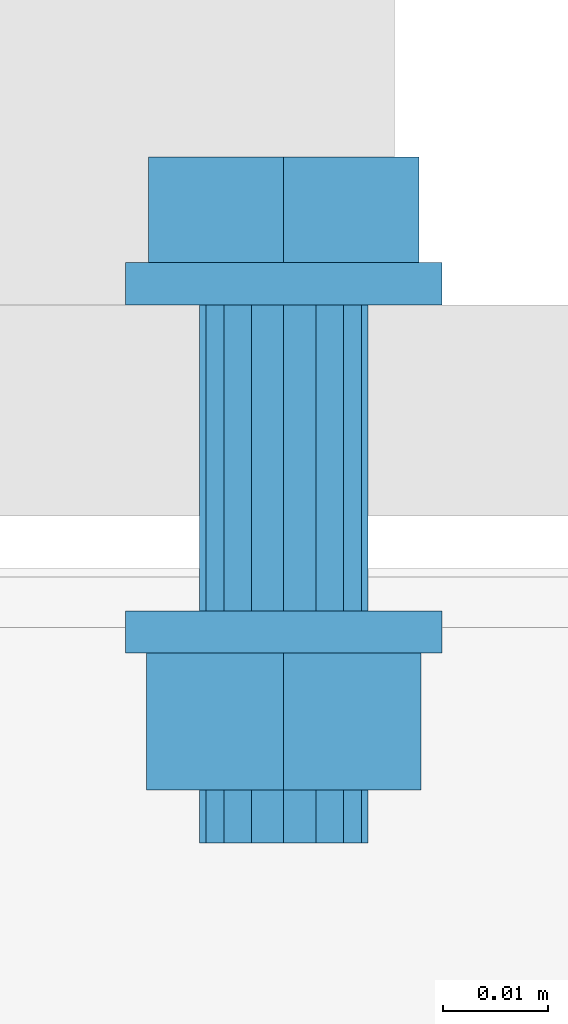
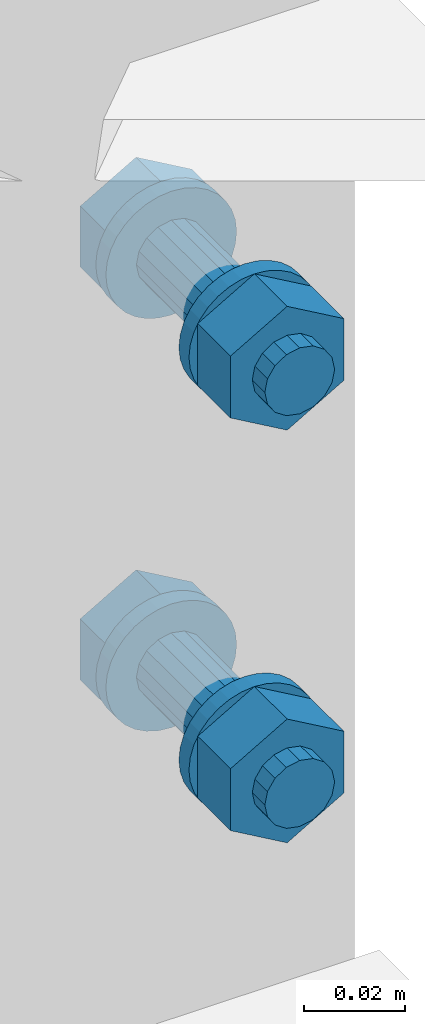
# One storey, part 17 of 21: 2 mechanical fasteners.
"""IFC4X3_ADD2 building model written with IfcOpenShell, lengths in millimetres."""

from ifc_helpers import new_model, entity, si_unit, converted_unit, derived_unit, direction, frame, origin, place, context, project, spatial, faceted_brep, element, save


model = new_model("IFC4X3_ADD2")

# Units and contexts
model_context = context("Model", 3, precision=0.01, world=origin(), true_north=direction((6.123233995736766e-17, 1.0)))
plan_context = context("Plan", 3, precision=0.01, world=origin(), true_north=direction((6.123233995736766e-17, 1.0)))
ifc_project = project(units=[si_unit("LENGTHUNIT", "METRE", prefix="MILLI"), converted_unit("PLANEANGLEUNIT", "DEGREE", entity("IfcPlaneAngleMeasure", 0.017453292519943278), si_unit("PLANEANGLEUNIT", "RADIAN"), dimensions=[0, 0, 0, 0, 0, 0, 0]), si_unit("AREAUNIT", "SQUARE_METRE"), si_unit("VOLUMEUNIT", "CUBIC_METRE"), derived_unit("THERMALTRANSMITTANCEUNIT", [(si_unit("MASSUNIT", "GRAM", prefix="KILO"), 1), (si_unit("THERMODYNAMICTEMPERATUREUNIT", "KELVIN"), -1), (si_unit("TIMEUNIT", "SECOND"), -3)]), derived_unit("USERDEFINED", [(si_unit("MASSUNIT", "GRAM", prefix="KILO"), 1), (si_unit("THERMODYNAMICTEMPERATUREUNIT", "KELVIN"), -1), (si_unit("TIMEUNIT", "SECOND"), -2)]), derived_unit("THERMALRESISTANCEUNIT", [(si_unit("MASSUNIT", "GRAM", prefix="KILO"), -1), (si_unit("TIMEUNIT", "SECOND"), 3), (si_unit("THERMODYNAMICTEMPERATUREUNIT", "KELVIN"), 1)]), si_unit("MASSUNIT", "GRAM", prefix="KILO"), derived_unit("MOMENTOFINERTIAUNIT", [(si_unit("LENGTHUNIT", "METRE"), 4)]), derived_unit("LINEARFORCEUNIT", [(si_unit("MASSUNIT", "GRAM", prefix="KILO"), 1), (si_unit("TIMEUNIT", "SECOND"), -2)]), derived_unit("WARPINGCONSTANTUNIT", [(si_unit("LENGTHUNIT", "METRE"), 6)]), si_unit("PRESSUREUNIT", "PASCAL"), derived_unit("MASSDENSITYUNIT", [(si_unit("MASSUNIT", "GRAM", prefix="KILO"), 1), (si_unit("LENGTHUNIT", "METRE"), -3)]), derived_unit("MODULUSOFELASTICITYUNIT", [(si_unit("MASSUNIT", "GRAM", prefix="KILO"), 1), (si_unit("TIMEUNIT", "SECOND"), -2), (si_unit("LENGTHUNIT", "METRE"), -1)]), derived_unit("THERMALEXPANSIONCOEFFICIENTUNIT", [(si_unit("THERMODYNAMICTEMPERATUREUNIT", "KELVIN"), -1)]), derived_unit("VAPORPERMEABILITYUNIT", [(si_unit("LENGTHUNIT", "METRE"), -1), (si_unit("TIMEUNIT", "SECOND"), 1)]), derived_unit("USERDEFINED", [(si_unit("MASSUNIT", "GRAM", prefix="KILO"), 1), (si_unit("TIMEUNIT", "SECOND"), -3), (si_unit("LENGTHUNIT", "METRE"), 3), (si_unit("ELECTRICCURRENTUNIT", "AMPERE"), -2)]), derived_unit("SPECIFICHEATCAPACITYUNIT", [(si_unit("THERMODYNAMICTEMPERATUREUNIT", "KELVIN"), -1), (si_unit("TIMEUNIT", "SECOND"), -2), (si_unit("LENGTHUNIT", "METRE"), 2)]), derived_unit("THERMALCONDUCTANCEUNIT", [(si_unit("MASSUNIT", "GRAM", prefix="KILO"), 1), (si_unit("THERMODYNAMICTEMPERATUREUNIT", "KELVIN"), -1), (si_unit("TIMEUNIT", "SECOND"), -3), (si_unit("LENGTHUNIT", "METRE"), 1)])], contexts=[model_context, plan_context])

# Site, building, storey
site_placement = place(None, origin())
site = spatial("IfcSite", under=ifc_project, at=site_placement, Name="Default", CompositionType="ELEMENT")
building_placement = place(site_placement, origin())
building = spatial("IfcBuilding", under=site, at=building_placement, Name="Complex structure", CompositionType="ELEMENT")
storey_placement = place(building_placement, frame((0.0, 0.0, 3000.0)))
storey = spatial("IfcBuildingStorey", under=building, at=storey_placement, Name="Level 01", CompositionType="ELEMENT", Elevation=3000.0)

# Mechanical fasteners
mechanical_fastener_1_placement = place(storey_placement, frame((0.0, 0.0, -3000.0)))
element("IfcMechanicalFastener", 1, at=mechanical_fastener_1_placement, inside=storey, ObjectType="Bolt#7", NominalDiameter=16.0, NominalLength=55.0, context=model_context, shape_type="Brep", body=[
    faceted_brep([(-5081.026350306, -1182.866703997, 3703.0), (-5081.026350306, -1186.866703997, 3703.0), (-5081.3145711, -1186.866703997, 3700.07364517), (-5081.3145711, -1182.866703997, 3700.07364517), (-5082.168157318, -1186.866703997, 3697.259748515), (-5082.168157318, -1182.866703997, 3697.259748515), (-5083.554306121, -1186.866703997, 3694.666446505), (-5083.554306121, -1182.866703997, 3694.666446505), (-5085.419748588, -1186.866703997, 3692.393398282), (-5085.419748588, -1182.866703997, 3692.393398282), (-5087.692796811, -1186.866703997, 3690.527955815), (-5087.692796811, -1182.866703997, 3690.527955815), (-5090.28609882, -1186.866703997, 3689.141807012), (-5090.28609882, -1182.866703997, 3689.141807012), (-5093.099995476, -1186.866703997, 3688.288220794), (-5093.099995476, -1182.866703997, 3688.288220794), (-5096.026350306, -1186.866703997, 3688.0), (-5096.026350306, -1182.866703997, 3688.0), (-5098.952705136, -1186.866703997, 3688.288220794), (-5098.952705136, -1182.866703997, 3688.288220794), (-5101.766601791, -1186.866703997, 3689.141807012), (-5101.766601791, -1182.866703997, 3689.141807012), (-5104.359903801, -1186.866703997, 3690.527955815), (-5104.359903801, -1182.866703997, 3690.527955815), (-5106.632952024, -1186.866703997, 3692.393398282), (-5106.632952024, -1182.866703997, 3692.393398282), (-5108.49839449, -1186.866703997, 3694.666446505), (-5108.49839449, -1182.866703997, 3694.666446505), (-5109.884543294, -1186.866703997, 3697.259748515), (-5109.884543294, -1182.866703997, 3697.259748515), (-5110.738129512, -1186.866703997, 3700.07364517), (-5110.738129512, -1182.866703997, 3700.07364517), (-5111.026350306, -1186.866703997, 3703.0), (-5111.026350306, -1182.866703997, 3703.0), (-5110.738129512, -1186.866703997, 3705.92635483), (-5110.738129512, -1182.866703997, 3705.92635483), (-5109.884543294, -1186.866703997, 3708.740251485), (-5109.884543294, -1182.866703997, 3708.740251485), (-5108.49839449, -1186.866703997, 3711.333553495), (-5108.49839449, -1182.866703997, 3711.333553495), (-5106.632952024, -1186.866703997, 3713.606601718), (-5106.632952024, -1182.866703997, 3713.606601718), (-5104.359903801, -1186.866703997, 3715.472044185), (-5104.359903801, -1182.866703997, 3715.472044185), (-5101.766601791, -1186.866703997, 3716.858192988), (-5101.766601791, -1182.866703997, 3716.858192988), (-5098.952705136, -1186.866703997, 3717.711779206), (-5098.952705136, -1182.866703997, 3717.711779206), (-5096.026350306, -1186.866703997, 3718.0), (-5096.026350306, -1182.866703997, 3718.0), (-5093.099995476, -1186.866703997, 3717.711779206), (-5093.099995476, -1182.866703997, 3717.711779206), (-5090.28609882, -1186.866703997, 3716.858192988), (-5090.28609882, -1182.866703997, 3716.858192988), (-5087.692796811, -1186.866703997, 3715.472044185), (-5087.692796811, -1182.866703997, 3715.472044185), (-5085.419748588, -1186.866703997, 3713.606601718), (-5085.419748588, -1182.866703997, 3713.606601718), (-5083.554306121, -1186.866703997, 3711.333553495), (-5083.554306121, -1182.866703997, 3711.333553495), (-5082.168157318, -1186.866703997, 3708.740251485), (-5082.168157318, -1182.866703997, 3708.740251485), (-5081.3145711, -1186.866703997, 3705.92635483), (-5081.3145711, -1182.866703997, 3705.92635483)], [[[0, 1, 2, 3]], [[3, 2, 4, 5]], [[5, 4, 6, 7]], [[7, 6, 8, 9]], [[9, 8, 10, 11]], [[11, 10, 12, 13]], [[13, 12, 14, 15]], [[15, 14, 16, 17]], [[17, 16, 18, 19]], [[19, 18, 20, 21]], [[21, 20, 22, 23]], [[23, 22, 24, 25]], [[25, 24, 26, 27]], [[27, 26, 28, 29]], [[29, 28, 30, 31]], [[31, 30, 32, 33]], [[33, 32, 34, 35]], [[35, 34, 36, 37]], [[37, 36, 38, 39]], [[39, 38, 40, 41]], [[41, 40, 42, 43]], [[43, 42, 44, 45]], [[45, 44, 46, 47]], [[47, 46, 48, 49]], [[49, 48, 50, 51]], [[51, 50, 52, 53]], [[53, 52, 54, 55]], [[55, 54, 56, 57]], [[57, 56, 58, 59]], [[59, 58, 60, 61]], [[61, 60, 62, 63]], [[63, 62, 1, 0]], [[0, 3, 5, 7, 9, 11, 13, 15, 17, 19, 21, 23, 25, 27, 29, 31, 33, 35, 37, 39, 41, 43, 45, 47, 49, 51, 53, 55, 57, 59, 61, 63]], [[1, 62, 60, 58, 56, 54, 52, 50, 48, 46, 44, 42, 40, 38, 36, 34, 32, 30, 28, 26, 24, 22, 20, 18, 16, 14, 12, 10, 8, 6, 4, 2]]]),
    faceted_brep([(-5108.826205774, -1182.866703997, 3695.61), (-5108.826205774, -1172.866703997, 3695.61), (-5096.026350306, -1172.866703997, 3688.22), (-5096.026350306, -1182.866703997, 3688.22), (-5083.226494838, -1172.866703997, 3695.61), (-5083.226494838, -1182.866703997, 3695.61), (-5083.226494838, -1172.866703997, 3710.39), (-5083.226494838, -1182.866703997, 3710.39), (-5096.026350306, -1172.866703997, 3717.78), (-5096.026350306, -1182.866703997, 3717.78), (-5108.826205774, -1172.866703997, 3710.39), (-5108.826205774, -1182.866703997, 3710.39)], [[[0, 1, 2, 3]], [[3, 2, 4, 5]], [[5, 4, 6, 7]], [[7, 6, 8, 9]], [[9, 8, 10, 11]], [[11, 10, 1, 0]], [[4, 2, 1, 10, 8, 6]], [[0, 3, 5, 7, 9, 11]]]),
    faceted_brep([(-5088.026350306, -1186.866703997, 3703.0), (-5088.026350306, -1215.866703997, 3703.0), (-5088.635314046, -1215.866703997, 3699.938532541), (-5088.635314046, -1186.866703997, 3699.938532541), (-5090.369496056, -1215.866703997, 3697.343145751), (-5090.369496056, -1186.866703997, 3697.343145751), (-5092.964882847, -1215.866703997, 3695.60896374), (-5092.964882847, -1186.866703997, 3695.60896374), (-5096.026350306, -1215.866703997, 3695.0), (-5096.026350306, -1186.866703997, 3695.0), (-5099.087817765, -1215.866703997, 3695.60896374), (-5099.087817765, -1186.866703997, 3695.60896374), (-5101.683204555, -1215.866703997, 3697.343145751), (-5101.683204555, -1186.866703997, 3697.343145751), (-5103.417386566, -1215.866703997, 3699.938532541), (-5103.417386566, -1186.866703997, 3699.938532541), (-5104.026350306, -1215.866703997, 3703.0), (-5104.026350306, -1186.866703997, 3703.0), (-5103.417386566, -1215.866703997, 3706.061467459), (-5103.417386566, -1186.866703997, 3706.061467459), (-5101.683204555, -1215.866703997, 3708.656854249), (-5101.683204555, -1186.866703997, 3708.656854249), (-5099.087817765, -1215.866703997, 3710.39103626), (-5099.087817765, -1186.866703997, 3710.39103626), (-5096.026350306, -1215.866703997, 3711.0), (-5096.026350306, -1186.866703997, 3711.0), (-5092.964882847, -1215.866703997, 3710.39103626), (-5092.964882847, -1186.866703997, 3710.39103626), (-5090.369496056, -1215.866703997, 3708.656854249), (-5090.369496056, -1186.866703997, 3708.656854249), (-5088.635314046, -1215.866703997, 3706.061467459), (-5088.635314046, -1186.866703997, 3706.061467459)], [[[0, 1, 2, 3]], [[3, 2, 4, 5]], [[5, 4, 6, 7]], [[7, 6, 8, 9]], [[9, 8, 10, 11]], [[11, 10, 12, 13]], [[13, 12, 14, 15]], [[15, 14, 16, 17]], [[17, 16, 18, 19]], [[19, 18, 20, 21]], [[21, 20, 22, 23]], [[23, 22, 24, 25]], [[25, 24, 26, 27]], [[27, 26, 28, 29]], [[29, 28, 30, 31]], [[31, 30, 1, 0]], [[0, 3, 5, 7, 9, 11, 13, 15, 17, 19, 21, 23, 25, 27, 29, 31]], [[1, 30, 28, 26, 24, 22, 20, 18, 16, 14, 12, 10, 8, 6, 4, 2]]]),
    faceted_brep([(-5081.026350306, -1215.866703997, 3703.0), (-5081.026350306, -1219.866703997, 3703.0), (-5081.3145711, -1219.866703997, 3700.07364517), (-5081.3145711, -1215.866703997, 3700.07364517), (-5082.168157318, -1219.866703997, 3697.259748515), (-5082.168157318, -1215.866703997, 3697.259748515), (-5083.554306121, -1219.866703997, 3694.666446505), (-5083.554306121, -1215.866703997, 3694.666446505), (-5085.419748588, -1219.866703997, 3692.393398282), (-5085.419748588, -1215.866703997, 3692.393398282), (-5087.692796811, -1219.866703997, 3690.527955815), (-5087.692796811, -1215.866703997, 3690.527955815), (-5090.28609882, -1219.866703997, 3689.141807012), (-5090.28609882, -1215.866703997, 3689.141807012), (-5093.099995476, -1219.866703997, 3688.288220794), (-5093.099995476, -1215.866703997, 3688.288220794), (-5096.026350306, -1219.866703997, 3688.0), (-5096.026350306, -1215.866703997, 3688.0), (-5098.952705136, -1219.866703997, 3688.288220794), (-5098.952705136, -1215.866703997, 3688.288220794), (-5101.766601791, -1219.866703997, 3689.141807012), (-5101.766601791, -1215.866703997, 3689.141807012), (-5104.359903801, -1219.866703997, 3690.527955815), (-5104.359903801, -1215.866703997, 3690.527955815), (-5106.632952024, -1219.866703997, 3692.393398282), (-5106.632952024, -1215.866703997, 3692.393398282), (-5108.49839449, -1219.866703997, 3694.666446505), (-5108.49839449, -1215.866703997, 3694.666446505), (-5109.884543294, -1219.866703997, 3697.259748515), (-5109.884543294, -1215.866703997, 3697.259748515), (-5110.738129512, -1219.866703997, 3700.07364517), (-5110.738129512, -1215.866703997, 3700.07364517), (-5111.026350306, -1219.866703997, 3703.0), (-5111.026350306, -1215.866703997, 3703.0), (-5110.738129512, -1219.866703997, 3705.92635483), (-5110.738129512, -1215.866703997, 3705.92635483), (-5109.884543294, -1219.866703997, 3708.740251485), (-5109.884543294, -1215.866703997, 3708.740251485), (-5108.49839449, -1219.866703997, 3711.333553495), (-5108.49839449, -1215.866703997, 3711.333553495), (-5106.632952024, -1219.866703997, 3713.606601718), (-5106.632952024, -1215.866703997, 3713.606601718), (-5104.359903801, -1219.866703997, 3715.472044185), (-5104.359903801, -1215.866703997, 3715.472044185), (-5101.766601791, -1219.866703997, 3716.858192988), (-5101.766601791, -1215.866703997, 3716.858192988), (-5098.952705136, -1219.866703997, 3717.711779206), (-5098.952705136, -1215.866703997, 3717.711779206), (-5096.026350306, -1219.866703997, 3718.0), (-5096.026350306, -1215.866703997, 3718.0), (-5093.099995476, -1219.866703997, 3717.711779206), (-5093.099995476, -1215.866703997, 3717.711779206), (-5090.28609882, -1219.866703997, 3716.858192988), (-5090.28609882, -1215.866703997, 3716.858192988), (-5087.692796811, -1219.866703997, 3715.472044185), (-5087.692796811, -1215.866703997, 3715.472044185), (-5085.419748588, -1219.866703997, 3713.606601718), (-5085.419748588, -1215.866703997, 3713.606601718), (-5083.554306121, -1219.866703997, 3711.333553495), (-5083.554306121, -1215.866703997, 3711.333553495), (-5082.168157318, -1219.866703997, 3708.740251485), (-5082.168157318, -1215.866703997, 3708.740251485), (-5081.3145711, -1219.866703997, 3705.92635483), (-5081.3145711, -1215.866703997, 3705.92635483)], [[[0, 1, 2, 3]], [[3, 2, 4, 5]], [[5, 4, 6, 7]], [[7, 6, 8, 9]], [[9, 8, 10, 11]], [[11, 10, 12, 13]], [[13, 12, 14, 15]], [[15, 14, 16, 17]], [[17, 16, 18, 19]], [[19, 18, 20, 21]], [[21, 20, 22, 23]], [[23, 22, 24, 25]], [[25, 24, 26, 27]], [[27, 26, 28, 29]], [[29, 28, 30, 31]], [[31, 30, 32, 33]], [[33, 32, 34, 35]], [[35, 34, 36, 37]], [[37, 36, 38, 39]], [[39, 38, 40, 41]], [[41, 40, 42, 43]], [[43, 42, 44, 45]], [[45, 44, 46, 47]], [[47, 46, 48, 49]], [[49, 48, 50, 51]], [[51, 50, 52, 53]], [[53, 52, 54, 55]], [[55, 54, 56, 57]], [[57, 56, 58, 59]], [[59, 58, 60, 61]], [[61, 60, 62, 63]], [[63, 62, 1, 0]], [[0, 3, 5, 7, 9, 11, 13, 15, 17, 19, 21, 23, 25, 27, 29, 31, 33, 35, 37, 39, 41, 43, 45, 47, 49, 51, 53, 55, 57, 59, 61, 63]], [[1, 62, 60, 58, 56, 54, 52, 50, 48, 46, 44, 42, 40, 38, 36, 34, 32, 30, 28, 26, 24, 22, 20, 18, 16, 14, 12, 10, 8, 6, 4, 2]]]),
    faceted_brep([(-5109.016731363, -1232.866703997, 3695.5), (-5109.016731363, -1219.866703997, 3695.5), (-5096.026350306, -1219.866703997, 3688.0), (-5096.026350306, -1232.866703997, 3688.0), (-5083.035969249, -1219.866703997, 3695.5), (-5083.035969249, -1232.866703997, 3695.5), (-5083.035969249, -1219.866703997, 3710.5), (-5083.035969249, -1232.866703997, 3710.5), (-5096.026350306, -1219.866703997, 3718.0), (-5096.026350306, -1232.866703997, 3718.0), (-5109.016731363, -1219.866703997, 3710.5), (-5109.016731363, -1232.866703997, 3710.5)], [[[0, 1, 2, 3]], [[3, 2, 4, 5]], [[5, 4, 6, 7]], [[7, 6, 8, 9]], [[9, 8, 10, 11]], [[11, 10, 1, 0]], [[4, 2, 1, 10, 8, 6]], [[0, 3, 5, 7, 9, 11]]]),
    faceted_brep([(-5088.026350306, -1232.866703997, 3703.0), (-5088.026350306, -1237.866703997, 3703.0), (-5088.635314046, -1237.866703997, 3699.938532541), (-5088.635314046, -1232.866703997, 3699.938532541), (-5090.369496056, -1237.866703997, 3697.343145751), (-5090.369496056, -1232.866703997, 3697.343145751), (-5092.964882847, -1237.866703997, 3695.60896374), (-5092.964882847, -1232.866703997, 3695.60896374), (-5096.026350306, -1237.866703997, 3695.0), (-5096.026350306, -1232.866703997, 3695.0), (-5099.087817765, -1237.866703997, 3695.60896374), (-5099.087817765, -1232.866703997, 3695.60896374), (-5101.683204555, -1237.866703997, 3697.343145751), (-5101.683204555, -1232.866703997, 3697.343145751), (-5103.417386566, -1237.866703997, 3699.938532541), (-5103.417386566, -1232.866703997, 3699.938532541), (-5104.026350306, -1237.866703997, 3703.0), (-5104.026350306, -1232.866703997, 3703.0), (-5103.417386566, -1237.866703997, 3706.061467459), (-5103.417386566, -1232.866703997, 3706.061467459), (-5101.683204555, -1237.866703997, 3708.656854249), (-5101.683204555, -1232.866703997, 3708.656854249), (-5099.087817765, -1237.866703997, 3710.39103626), (-5099.087817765, -1232.866703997, 3710.39103626), (-5096.026350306, -1237.866703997, 3711.0), (-5096.026350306, -1232.866703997, 3711.0), (-5092.964882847, -1237.866703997, 3710.39103626), (-5092.964882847, -1232.866703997, 3710.39103626), (-5090.369496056, -1237.866703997, 3708.656854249), (-5090.369496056, -1232.866703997, 3708.656854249), (-5088.635314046, -1237.866703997, 3706.061467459), (-5088.635314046, -1232.866703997, 3706.061467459)], [[[0, 1, 2, 3]], [[3, 2, 4, 5]], [[5, 4, 6, 7]], [[7, 6, 8, 9]], [[9, 8, 10, 11]], [[11, 10, 12, 13]], [[13, 12, 14, 15]], [[15, 14, 16, 17]], [[17, 16, 18, 19]], [[19, 18, 20, 21]], [[21, 20, 22, 23]], [[23, 22, 24, 25]], [[25, 24, 26, 27]], [[27, 26, 28, 29]], [[29, 28, 30, 31]], [[31, 30, 1, 0]], [[0, 3, 5, 7, 9, 11, 13, 15, 17, 19, 21, 23, 25, 27, 29, 31]], [[1, 30, 28, 26, 24, 22, 20, 18, 16, 14, 12, 10, 8, 6, 4, 2]]]),
])
mechanical_fastener_2_placement = place(storey_placement, frame((0.0, 0.0, -3000.0)))
element("IfcMechanicalFastener", 2, at=mechanical_fastener_2_placement, inside=storey, ObjectType="Bolt#8", NominalDiameter=16.0, NominalLength=55.0, context=model_context, shape_type="Brep", body=[
    faceted_brep([(-5081.026350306, -1182.866703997, 3603.0), (-5081.026350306, -1186.866703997, 3603.0), (-5081.3145711, -1186.866703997, 3600.07364517), (-5081.3145711, -1182.866703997, 3600.07364517), (-5082.168157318, -1186.866703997, 3597.259748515), (-5082.168157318, -1182.866703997, 3597.259748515), (-5083.554306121, -1186.866703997, 3594.666446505), (-5083.554306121, -1182.866703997, 3594.666446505), (-5085.419748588, -1186.866703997, 3592.393398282), (-5085.419748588, -1182.866703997, 3592.393398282), (-5087.692796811, -1186.866703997, 3590.527955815), (-5087.692796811, -1182.866703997, 3590.527955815), (-5090.28609882, -1186.866703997, 3589.141807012), (-5090.28609882, -1182.866703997, 3589.141807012), (-5093.099995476, -1186.866703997, 3588.288220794), (-5093.099995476, -1182.866703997, 3588.288220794), (-5096.026350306, -1186.866703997, 3588.0), (-5096.026350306, -1182.866703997, 3588.0), (-5098.952705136, -1186.866703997, 3588.288220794), (-5098.952705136, -1182.866703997, 3588.288220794), (-5101.766601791, -1186.866703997, 3589.141807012), (-5101.766601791, -1182.866703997, 3589.141807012), (-5104.359903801, -1186.866703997, 3590.527955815), (-5104.359903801, -1182.866703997, 3590.527955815), (-5106.632952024, -1186.866703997, 3592.393398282), (-5106.632952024, -1182.866703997, 3592.393398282), (-5108.49839449, -1186.866703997, 3594.666446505), (-5108.49839449, -1182.866703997, 3594.666446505), (-5109.884543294, -1186.866703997, 3597.259748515), (-5109.884543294, -1182.866703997, 3597.259748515), (-5110.738129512, -1186.866703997, 3600.07364517), (-5110.738129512, -1182.866703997, 3600.07364517), (-5111.026350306, -1186.866703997, 3603.0), (-5111.026350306, -1182.866703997, 3603.0), (-5110.738129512, -1186.866703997, 3605.92635483), (-5110.738129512, -1182.866703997, 3605.92635483), (-5109.884543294, -1186.866703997, 3608.740251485), (-5109.884543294, -1182.866703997, 3608.740251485), (-5108.49839449, -1186.866703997, 3611.333553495), (-5108.49839449, -1182.866703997, 3611.333553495), (-5106.632952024, -1186.866703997, 3613.606601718), (-5106.632952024, -1182.866703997, 3613.606601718), (-5104.359903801, -1186.866703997, 3615.472044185), (-5104.359903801, -1182.866703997, 3615.472044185), (-5101.766601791, -1186.866703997, 3616.858192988), (-5101.766601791, -1182.866703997, 3616.858192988), (-5098.952705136, -1186.866703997, 3617.711779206), (-5098.952705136, -1182.866703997, 3617.711779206), (-5096.026350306, -1186.866703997, 3618.0), (-5096.026350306, -1182.866703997, 3618.0), (-5093.099995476, -1186.866703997, 3617.711779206), (-5093.099995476, -1182.866703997, 3617.711779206), (-5090.28609882, -1186.866703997, 3616.858192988), (-5090.28609882, -1182.866703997, 3616.858192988), (-5087.692796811, -1186.866703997, 3615.472044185), (-5087.692796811, -1182.866703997, 3615.472044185), (-5085.419748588, -1186.866703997, 3613.606601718), (-5085.419748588, -1182.866703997, 3613.606601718), (-5083.554306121, -1186.866703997, 3611.333553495), (-5083.554306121, -1182.866703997, 3611.333553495), (-5082.168157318, -1186.866703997, 3608.740251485), (-5082.168157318, -1182.866703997, 3608.740251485), (-5081.3145711, -1186.866703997, 3605.92635483), (-5081.3145711, -1182.866703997, 3605.92635483)], [[[0, 1, 2, 3]], [[3, 2, 4, 5]], [[5, 4, 6, 7]], [[7, 6, 8, 9]], [[9, 8, 10, 11]], [[11, 10, 12, 13]], [[13, 12, 14, 15]], [[15, 14, 16, 17]], [[17, 16, 18, 19]], [[19, 18, 20, 21]], [[21, 20, 22, 23]], [[23, 22, 24, 25]], [[25, 24, 26, 27]], [[27, 26, 28, 29]], [[29, 28, 30, 31]], [[31, 30, 32, 33]], [[33, 32, 34, 35]], [[35, 34, 36, 37]], [[37, 36, 38, 39]], [[39, 38, 40, 41]], [[41, 40, 42, 43]], [[43, 42, 44, 45]], [[45, 44, 46, 47]], [[47, 46, 48, 49]], [[49, 48, 50, 51]], [[51, 50, 52, 53]], [[53, 52, 54, 55]], [[55, 54, 56, 57]], [[57, 56, 58, 59]], [[59, 58, 60, 61]], [[61, 60, 62, 63]], [[63, 62, 1, 0]], [[0, 3, 5, 7, 9, 11, 13, 15, 17, 19, 21, 23, 25, 27, 29, 31, 33, 35, 37, 39, 41, 43, 45, 47, 49, 51, 53, 55, 57, 59, 61, 63]], [[1, 62, 60, 58, 56, 54, 52, 50, 48, 46, 44, 42, 40, 38, 36, 34, 32, 30, 28, 26, 24, 22, 20, 18, 16, 14, 12, 10, 8, 6, 4, 2]]]),
    faceted_brep([(-5108.826205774, -1182.866703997, 3595.61), (-5108.826205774, -1172.866703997, 3595.61), (-5096.026350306, -1172.866703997, 3588.22), (-5096.026350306, -1182.866703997, 3588.22), (-5083.226494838, -1172.866703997, 3595.61), (-5083.226494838, -1182.866703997, 3595.61), (-5083.226494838, -1172.866703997, 3610.39), (-5083.226494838, -1182.866703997, 3610.39), (-5096.026350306, -1172.866703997, 3617.78), (-5096.026350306, -1182.866703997, 3617.78), (-5108.826205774, -1172.866703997, 3610.39), (-5108.826205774, -1182.866703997, 3610.39)], [[[0, 1, 2, 3]], [[3, 2, 4, 5]], [[5, 4, 6, 7]], [[7, 6, 8, 9]], [[9, 8, 10, 11]], [[11, 10, 1, 0]], [[4, 2, 1, 10, 8, 6]], [[0, 3, 5, 7, 9, 11]]]),
    faceted_brep([(-5088.026350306, -1186.866703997, 3603.0), (-5088.026350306, -1215.866703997, 3603.0), (-5088.635314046, -1215.866703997, 3599.938532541), (-5088.635314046, -1186.866703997, 3599.938532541), (-5090.369496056, -1215.866703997, 3597.343145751), (-5090.369496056, -1186.866703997, 3597.343145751), (-5092.964882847, -1215.866703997, 3595.60896374), (-5092.964882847, -1186.866703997, 3595.60896374), (-5096.026350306, -1215.866703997, 3595.0), (-5096.026350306, -1186.866703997, 3595.0), (-5099.087817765, -1215.866703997, 3595.60896374), (-5099.087817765, -1186.866703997, 3595.60896374), (-5101.683204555, -1215.866703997, 3597.343145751), (-5101.683204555, -1186.866703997, 3597.343145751), (-5103.417386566, -1215.866703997, 3599.938532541), (-5103.417386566, -1186.866703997, 3599.938532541), (-5104.026350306, -1215.866703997, 3603.0), (-5104.026350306, -1186.866703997, 3603.0), (-5103.417386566, -1215.866703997, 3606.061467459), (-5103.417386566, -1186.866703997, 3606.061467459), (-5101.683204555, -1215.866703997, 3608.656854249), (-5101.683204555, -1186.866703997, 3608.656854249), (-5099.087817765, -1215.866703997, 3610.39103626), (-5099.087817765, -1186.866703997, 3610.39103626), (-5096.026350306, -1215.866703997, 3611.0), (-5096.026350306, -1186.866703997, 3611.0), (-5092.964882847, -1215.866703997, 3610.39103626), (-5092.964882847, -1186.866703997, 3610.39103626), (-5090.369496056, -1215.866703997, 3608.656854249), (-5090.369496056, -1186.866703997, 3608.656854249), (-5088.635314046, -1215.866703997, 3606.061467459), (-5088.635314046, -1186.866703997, 3606.061467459)], [[[0, 1, 2, 3]], [[3, 2, 4, 5]], [[5, 4, 6, 7]], [[7, 6, 8, 9]], [[9, 8, 10, 11]], [[11, 10, 12, 13]], [[13, 12, 14, 15]], [[15, 14, 16, 17]], [[17, 16, 18, 19]], [[19, 18, 20, 21]], [[21, 20, 22, 23]], [[23, 22, 24, 25]], [[25, 24, 26, 27]], [[27, 26, 28, 29]], [[29, 28, 30, 31]], [[31, 30, 1, 0]], [[0, 3, 5, 7, 9, 11, 13, 15, 17, 19, 21, 23, 25, 27, 29, 31]], [[1, 30, 28, 26, 24, 22, 20, 18, 16, 14, 12, 10, 8, 6, 4, 2]]]),
    faceted_brep([(-5081.026350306, -1215.866703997, 3603.0), (-5081.026350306, -1219.866703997, 3603.0), (-5081.3145711, -1219.866703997, 3600.07364517), (-5081.3145711, -1215.866703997, 3600.07364517), (-5082.168157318, -1219.866703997, 3597.259748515), (-5082.168157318, -1215.866703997, 3597.259748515), (-5083.554306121, -1219.866703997, 3594.666446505), (-5083.554306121, -1215.866703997, 3594.666446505), (-5085.419748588, -1219.866703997, 3592.393398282), (-5085.419748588, -1215.866703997, 3592.393398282), (-5087.692796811, -1219.866703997, 3590.527955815), (-5087.692796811, -1215.866703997, 3590.527955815), (-5090.28609882, -1219.866703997, 3589.141807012), (-5090.28609882, -1215.866703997, 3589.141807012), (-5093.099995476, -1219.866703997, 3588.288220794), (-5093.099995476, -1215.866703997, 3588.288220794), (-5096.026350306, -1219.866703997, 3588.0), (-5096.026350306, -1215.866703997, 3588.0), (-5098.952705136, -1219.866703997, 3588.288220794), (-5098.952705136, -1215.866703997, 3588.288220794), (-5101.766601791, -1219.866703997, 3589.141807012), (-5101.766601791, -1215.866703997, 3589.141807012), (-5104.359903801, -1219.866703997, 3590.527955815), (-5104.359903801, -1215.866703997, 3590.527955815), (-5106.632952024, -1219.866703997, 3592.393398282), (-5106.632952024, -1215.866703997, 3592.393398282), (-5108.49839449, -1219.866703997, 3594.666446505), (-5108.49839449, -1215.866703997, 3594.666446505), (-5109.884543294, -1219.866703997, 3597.259748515), (-5109.884543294, -1215.866703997, 3597.259748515), (-5110.738129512, -1219.866703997, 3600.07364517), (-5110.738129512, -1215.866703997, 3600.07364517), (-5111.026350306, -1219.866703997, 3603.0), (-5111.026350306, -1215.866703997, 3603.0), (-5110.738129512, -1219.866703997, 3605.92635483), (-5110.738129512, -1215.866703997, 3605.92635483), (-5109.884543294, -1219.866703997, 3608.740251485), (-5109.884543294, -1215.866703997, 3608.740251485), (-5108.49839449, -1219.866703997, 3611.333553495), (-5108.49839449, -1215.866703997, 3611.333553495), (-5106.632952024, -1219.866703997, 3613.606601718), (-5106.632952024, -1215.866703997, 3613.606601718), (-5104.359903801, -1219.866703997, 3615.472044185), (-5104.359903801, -1215.866703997, 3615.472044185), (-5101.766601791, -1219.866703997, 3616.858192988), (-5101.766601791, -1215.866703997, 3616.858192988), (-5098.952705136, -1219.866703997, 3617.711779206), (-5098.952705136, -1215.866703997, 3617.711779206), (-5096.026350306, -1219.866703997, 3618.0), (-5096.026350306, -1215.866703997, 3618.0), (-5093.099995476, -1219.866703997, 3617.711779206), (-5093.099995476, -1215.866703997, 3617.711779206), (-5090.28609882, -1219.866703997, 3616.858192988), (-5090.28609882, -1215.866703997, 3616.858192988), (-5087.692796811, -1219.866703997, 3615.472044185), (-5087.692796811, -1215.866703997, 3615.472044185), (-5085.419748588, -1219.866703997, 3613.606601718), (-5085.419748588, -1215.866703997, 3613.606601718), (-5083.554306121, -1219.866703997, 3611.333553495), (-5083.554306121, -1215.866703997, 3611.333553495), (-5082.168157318, -1219.866703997, 3608.740251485), (-5082.168157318, -1215.866703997, 3608.740251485), (-5081.3145711, -1219.866703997, 3605.92635483), (-5081.3145711, -1215.866703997, 3605.92635483)], [[[0, 1, 2, 3]], [[3, 2, 4, 5]], [[5, 4, 6, 7]], [[7, 6, 8, 9]], [[9, 8, 10, 11]], [[11, 10, 12, 13]], [[13, 12, 14, 15]], [[15, 14, 16, 17]], [[17, 16, 18, 19]], [[19, 18, 20, 21]], [[21, 20, 22, 23]], [[23, 22, 24, 25]], [[25, 24, 26, 27]], [[27, 26, 28, 29]], [[29, 28, 30, 31]], [[31, 30, 32, 33]], [[33, 32, 34, 35]], [[35, 34, 36, 37]], [[37, 36, 38, 39]], [[39, 38, 40, 41]], [[41, 40, 42, 43]], [[43, 42, 44, 45]], [[45, 44, 46, 47]], [[47, 46, 48, 49]], [[49, 48, 50, 51]], [[51, 50, 52, 53]], [[53, 52, 54, 55]], [[55, 54, 56, 57]], [[57, 56, 58, 59]], [[59, 58, 60, 61]], [[61, 60, 62, 63]], [[63, 62, 1, 0]], [[0, 3, 5, 7, 9, 11, 13, 15, 17, 19, 21, 23, 25, 27, 29, 31, 33, 35, 37, 39, 41, 43, 45, 47, 49, 51, 53, 55, 57, 59, 61, 63]], [[1, 62, 60, 58, 56, 54, 52, 50, 48, 46, 44, 42, 40, 38, 36, 34, 32, 30, 28, 26, 24, 22, 20, 18, 16, 14, 12, 10, 8, 6, 4, 2]]]),
    faceted_brep([(-5109.016731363, -1232.866703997, 3595.5), (-5109.016731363, -1219.866703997, 3595.5), (-5096.026350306, -1219.866703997, 3588.0), (-5096.026350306, -1232.866703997, 3588.0), (-5083.035969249, -1219.866703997, 3595.5), (-5083.035969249, -1232.866703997, 3595.5), (-5083.035969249, -1219.866703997, 3610.5), (-5083.035969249, -1232.866703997, 3610.5), (-5096.026350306, -1219.866703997, 3618.0), (-5096.026350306, -1232.866703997, 3618.0), (-5109.016731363, -1219.866703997, 3610.5), (-5109.016731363, -1232.866703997, 3610.5)], [[[0, 1, 2, 3]], [[3, 2, 4, 5]], [[5, 4, 6, 7]], [[7, 6, 8, 9]], [[9, 8, 10, 11]], [[11, 10, 1, 0]], [[4, 2, 1, 10, 8, 6]], [[0, 3, 5, 7, 9, 11]]]),
    faceted_brep([(-5088.026350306, -1232.866703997, 3603.0), (-5088.026350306, -1237.866703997, 3603.0), (-5088.635314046, -1237.866703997, 3599.938532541), (-5088.635314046, -1232.866703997, 3599.938532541), (-5090.369496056, -1237.866703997, 3597.343145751), (-5090.369496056, -1232.866703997, 3597.343145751), (-5092.964882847, -1237.866703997, 3595.60896374), (-5092.964882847, -1232.866703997, 3595.60896374), (-5096.026350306, -1237.866703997, 3595.0), (-5096.026350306, -1232.866703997, 3595.0), (-5099.087817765, -1237.866703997, 3595.60896374), (-5099.087817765, -1232.866703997, 3595.60896374), (-5101.683204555, -1237.866703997, 3597.343145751), (-5101.683204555, -1232.866703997, 3597.343145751), (-5103.417386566, -1237.866703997, 3599.938532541), (-5103.417386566, -1232.866703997, 3599.938532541), (-5104.026350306, -1237.866703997, 3603.0), (-5104.026350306, -1232.866703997, 3603.0), (-5103.417386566, -1237.866703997, 3606.061467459), (-5103.417386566, -1232.866703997, 3606.061467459), (-5101.683204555, -1237.866703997, 3608.656854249), (-5101.683204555, -1232.866703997, 3608.656854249), (-5099.087817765, -1237.866703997, 3610.39103626), (-5099.087817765, -1232.866703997, 3610.39103626), (-5096.026350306, -1237.866703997, 3611.0), (-5096.026350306, -1232.866703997, 3611.0), (-5092.964882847, -1237.866703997, 3610.39103626), (-5092.964882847, -1232.866703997, 3610.39103626), (-5090.369496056, -1237.866703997, 3608.656854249), (-5090.369496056, -1232.866703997, 3608.656854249), (-5088.635314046, -1237.866703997, 3606.061467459), (-5088.635314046, -1232.866703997, 3606.061467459)], [[[0, 1, 2, 3]], [[3, 2, 4, 5]], [[5, 4, 6, 7]], [[7, 6, 8, 9]], [[9, 8, 10, 11]], [[11, 10, 12, 13]], [[13, 12, 14, 15]], [[15, 14, 16, 17]], [[17, 16, 18, 19]], [[19, 18, 20, 21]], [[21, 20, 22, 23]], [[23, 22, 24, 25]], [[25, 24, 26, 27]], [[27, 26, 28, 29]], [[29, 28, 30, 31]], [[31, 30, 1, 0]], [[0, 3, 5, 7, 9, 11, 13, 15, 17, 19, 21, 23, 25, 27, 29, 31]], [[1, 30, 28, 26, 24, 22, 20, 18, 16, 14, 12, 10, 8, 6, 4, 2]]]),
])

save(model, "model.ifc")
